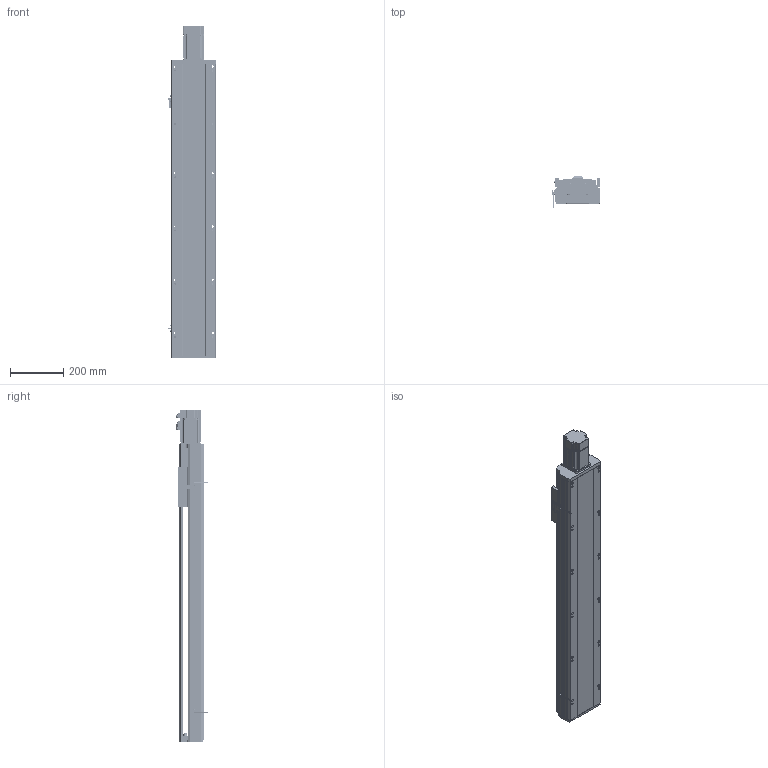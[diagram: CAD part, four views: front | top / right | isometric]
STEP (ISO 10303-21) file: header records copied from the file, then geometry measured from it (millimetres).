
FILE_DESCRIPTION (( 'STEP AP214' ), '1' );
FILE_NAME ('CTH170-850.STEP', '2019-11-25T09:00:31', ( '微软用户' ), ( '微软中国' ), 'SwSTEP 2.0', 'SolidWorks 2017', '' );
FILE_SCHEMA (( 'AUTOMOTIVE_DESIGN' ));
Length unit declared in the file: millimetre
Products named in the file (32): 坶踡蹟簽M15x1; EGH20CA_BLOCK; 潔路遠COL15-A; EG20_RAIL; MISUMI_B7002-DB_盄俶絳砃粣; 170賑怢; BEARING_MISUMI_B7002-DB_盄俶絳砃粣; 170裔啣^CTH170-L10-200; 錨璃8^蚾饜极3_CTH170-L10-200; 錨璃2; 复件 轴承座^装配体3_CTH170-L10-200; 佪話盓傅釱^CTH170-L10-200; CTH170-850; M5-L16囀鞠褒蹟佪; 遣喳蝶15x12x8-BR L; 支撑座^丝杠支撑座_CTH170-L10-200; B6002Z; _C-BSST2005_n; SFS2005-411-SZC; SFH2010佪裝; M3-L8囀鞠褒蹟佪; 80EMA-016A; EE-SX672峚倰換覜ん; 170萇儂啣; CT17耀郪-覜茼んえ; 170傷啣; M6-L20囀鞠褒蹟佪; EGH20CA; 蚾饜极3^CTH170-L10-200; M5-L20囀鞠褒蹟佪-BR L; M4-L10囀鞠褒蹟佪-BR L; M5-L10囀鞠褒蹟佪
Assembly tree (79 placements, depth 4):
  CTH170-850
    錨璃2
    170裔啣^CTH170-L10-200
    170賑怢
    EGH20CA  x2
      EG20_RAIL
      EGH20CA_BLOCK
      M5-L10囀鞠褒蹟佪
      M5-L20囀鞠褒蹟佪-BR L
    170傷啣
    170萇儂啣
    80EMA-016A
    SFS2005-411-SZC
      SFH2010佪裝
    _C-BSST2005_n
    佪話盓傅釱^CTH170-L10-200
      B6002Z
      支撑座^丝杠支撑座_CTH170-L10-200
      遣喳蝶15x12x8-BR L  x2
      M5-L16囀鞠褒蹟佪  x2
    蚾饜极3^CTH170-L10-200
      复件 轴承座^装配体3_CTH170-L10-200
      錨璃8^蚾饜极3_CTH170-L10-200
      MISUMI_B7002-DB_盄俶絳砃粣
        BEARING_MISUMI_B7002-DB_盄俶絳砃粣  x2
      潔路遠COL15-A  x2
      坶踡蹟簽M15x1
      M5-L16囀鞠褒蹟佪  x6
      M4-L10囀鞠褒蹟佪-BR L  x4
    遣喳蝶15x12x8-BR L  x2
    M6-L20囀鞠褒蹟佪  x4
    M4-L10囀鞠褒蹟佪-BR L  x10
    M5-L16囀鞠褒蹟佪  x4
    CT17耀郪-覜茼んえ
    EE-SX672峚倰換覜ん  x2
    M3-L8囀鞠褒蹟佪  x4
Bounding box: 183.7 x 117.95 x 1246 mm (x, y, z)
Volume: 7136102.9 mm3; surface area: 2202909.9 mm2
Topology: 91 solids, 92 shells, 5723 faces, 15045 edges, 9588 vertices
Faces by surface type: plane 3134, cylinder 1562, cone 645, bspline 342, torus 40
Entity records: 103106 total; most frequent: CARTESIAN_POINT 21871, ORIENTED_EDGE 14828, DIRECTION 14481, EDGE_CURVE 7414, AXIS2_PLACEMENT_3D 5068, VERTEX_POINT 4820, VECTOR 4345, LINE 4345
